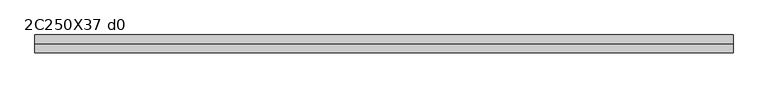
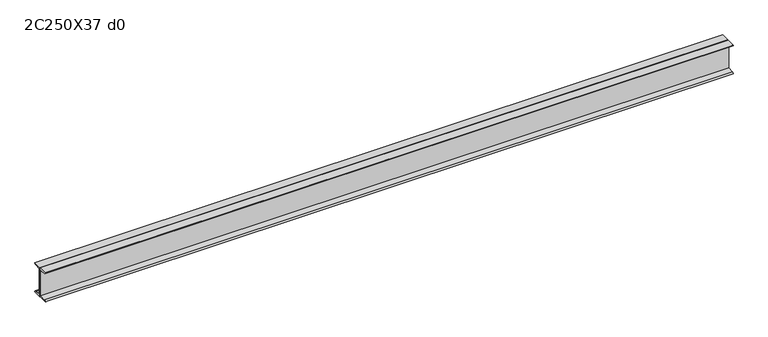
"""IFC4 building model written with IfcOpenShell, lengths in millimetres: beam geometry, Profilato a doppia C : 2C250X37 d0."""

from ifc_helpers import new_model, si_unit, point, frame, frame_2d, origin, place, context, project, spatial, polyline, circle_curve, trimmed, segment, composite_curve, outline, extrude, source, transform, mapped, element, save


def beam_2c250x37_d0_5cd3afa0(model_context):
    return source(origin(), model_context, "Body", "SweptSolid", [
        extrude(outline(composite_curve([segment(polyline([(0.5, 127.0), (73.8, 127.0)]), True, "CONTINUOUS"), segment(trimmed(circle_curve(frame_2d((62.7, 127.0)), 11.1), [point((73.8, 127.0))], [point((62.7, 115.9))], False, "CARTESIAN"), True, "CONTINUOUS"), segment(polyline([(62.7, 115.9), (13.9, 108.1708393), (13.9, -108.1708393), (62.7, -115.9)]), True, "CONTINUOUS"), segment(trimmed(circle_curve(frame_2d((62.7, -127.0)), 11.1), [point((62.7, -115.9))], [point((73.8, -127.0))], False, "CARTESIAN"), True, "CONTINUOUS"), segment(polyline([(73.8, -127.0), (0.5, -127.0), (0.5, 127.0)]), True, "CONTINUOUS")], self_intersect=False)), frame((-2860.0, 0.0, 0.0), z_axis=(1.0, 0.0, 0.0), x_axis=(0.0, 1.0, 0.0)), (0.0, 0.0, 1.0), 5720.0),
        extrude(outline(composite_curve([segment(polyline([(-0.5, 127.0), (-0.5, -127.0), (-73.8, -127.0)]), True, "CONTINUOUS"), segment(trimmed(circle_curve(frame_2d((-62.7, -127.0)), 11.1), [point((-73.8, -127.0))], [point((-62.7, -115.9))], False, "CARTESIAN"), True, "CONTINUOUS"), segment(polyline([(-62.7, -115.9), (-13.9, -108.1708393), (-13.9, 108.1708393), (-62.7, 115.9)]), True, "CONTINUOUS"), segment(trimmed(circle_curve(frame_2d((-62.7, 127.0)), 11.1), [point((-62.7, 115.9))], [point((-73.8, 127.0))], False, "CARTESIAN"), True, "CONTINUOUS"), segment(polyline([(-73.8, 127.0), (-0.5, 127.0)]), True, "CONTINUOUS")], self_intersect=False)), frame((-2860.0, 0.0, 0.0), z_axis=(1.0, 0.0, 0.0), x_axis=(0.0, 1.0, 0.0)), (0.0, 0.0, 1.0), 5720.0),
    ])


if __name__ == "__main__":
    model = new_model("IFC4")
    model_context = context("Model", 3, world=origin())
    ifc_project = project(units=[si_unit("LENGTHUNIT", "METRE", prefix="MILLI")], contexts=[model_context])
    site = spatial("IfcSite", under=ifc_project)
    building = spatial("IfcBuilding", under=site)
    placement = place(None, origin())
    beam_2c250x37_d0_shape = beam_2c250x37_d0_5cd3afa0(model_context)
    element("IfcBeam", 1, ObjectType="Profilato a doppia C : 2C250X37 d0", at=placement, inside=building, context=model_context, shape_type="MappedRepresentation", body=[
        mapped(beam_2c250x37_d0_shape, transform((0.0, 0.0, 0.0), x_axis=(1.0, 0.0, 0.0), y_axis=(0.0, 1.0, 0.0), z_axis=(0.0, 0.0, 1.0))),
    ])
    save(model, "model.ifc")
